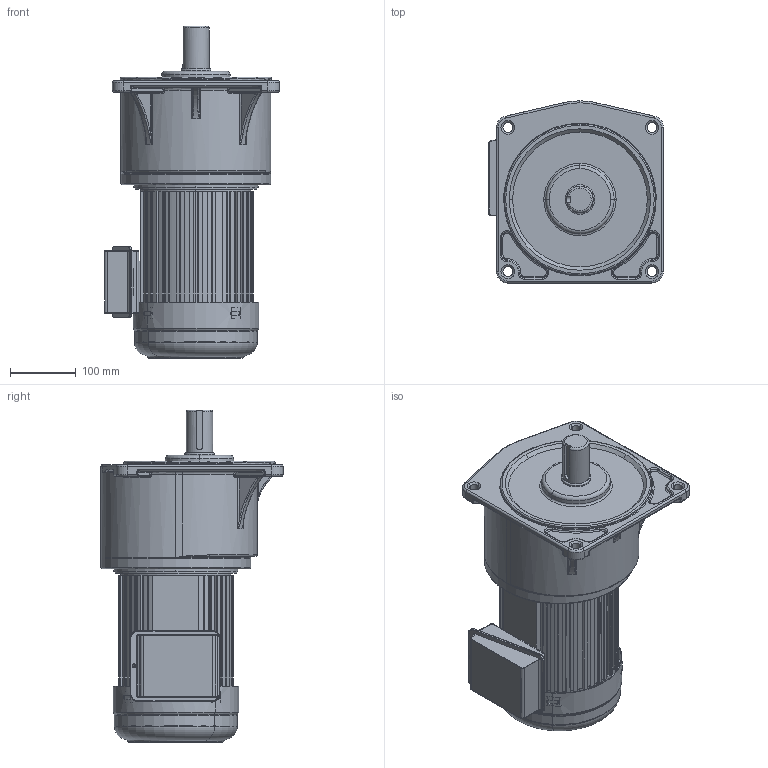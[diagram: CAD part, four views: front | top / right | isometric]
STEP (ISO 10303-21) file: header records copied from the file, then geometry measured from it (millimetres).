
FILE_DESCRIPTION(('HOOPS Exchange Step'),'2;1');
FILE_NAME('D:/ModelConvertServices/TZT.New3D002/output/737351e7-b356-4b26-af04-15b994807823/ZV1500-C(Z)-40K-100K(110K-150K)(40轴）.step','2026-07-28T22:58:09+08:00',('SYSTEM'),('Unknown organisation'),'HOOPS Exchange 2024.3','HOOPS Exchange','Unknown authorisation');
FILE_SCHEMA( ('AP203_CONFIGURATION_CONTROLLED_3D_DESIGN_OF_MECHANICAL_PARTS_AND_ASSEMBLIES_MIM_LF') );
Length unit declared in the file: millimetre
Products named in the file (1): AdmiE513rs69
Bounding box: 266.19 x 277.1 x 505 mm (x, y, z)
Volume: 12125679.7 mm3; surface area: 722654.3 mm2
Topology: 1 solids, 2 shells, 1634 faces, 4522 edges, 2919 vertices
Faces by surface type: plane 857, cylinder 487, torus 127, bspline 100, cone 57, sphere 6
Full cylindrical faces by diameter (mm): 40 x1, 45 x1, 228 x1
Entity records: 59189 total; most frequent: CARTESIAN_POINT 17033, ORIENTED_EDGE 9036, DIRECTION 8409, EDGE_CURVE 4518, VERTEX_POINT 2919, VECTOR 2899, LINE 2899, AXIS2_PLACEMENT_3D 2755
